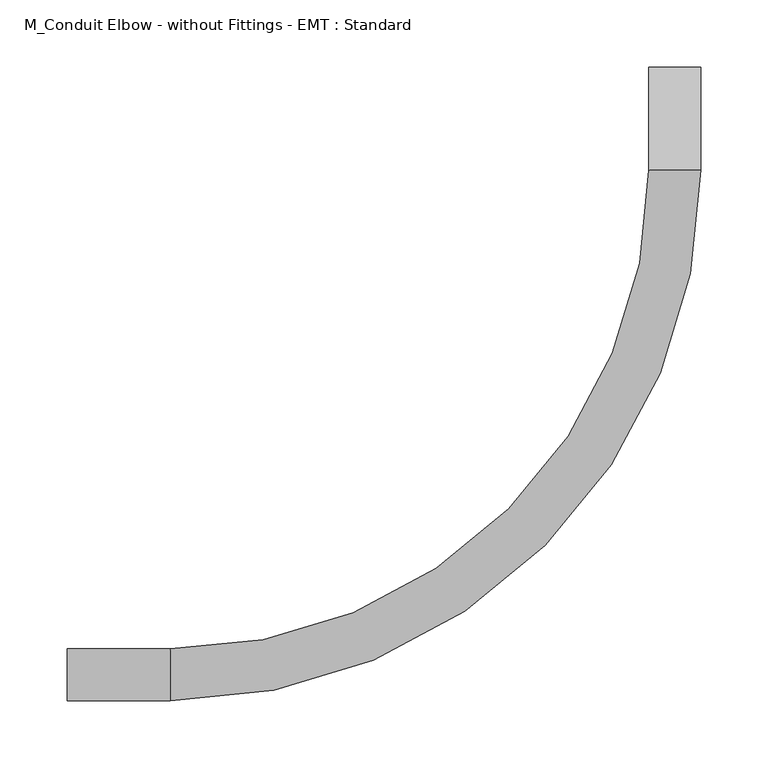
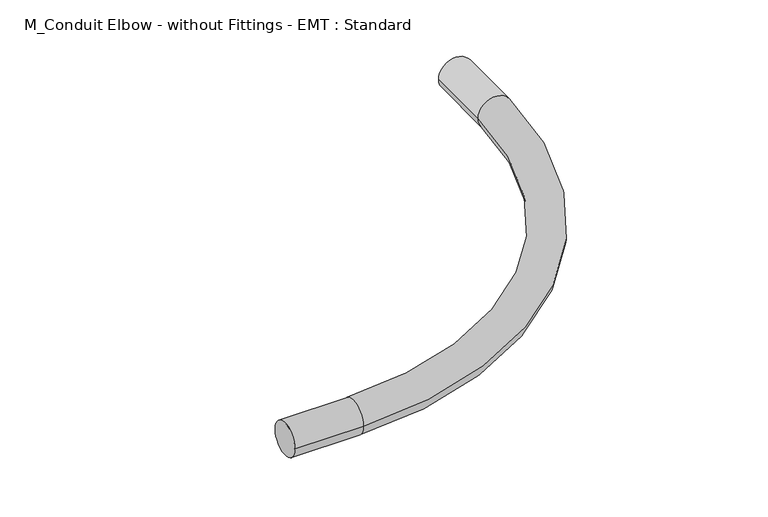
"""IFC4 building model written with IfcOpenShell, lengths in millimetres: cable carrier fitting geometry, M_Conduit Elbow - without Fittings - EMT : Standard."""

from ifc_helpers import new_model, si_unit, point, frame, origin, place, context, project, spatial, circle_curve, ellipse_curve, trimmed, source, transform, mapped, element, save
from ifc_brep_helpers import plane_surface, cylinder_surface, revolved_surface, advanced_brep


def m_conduit_elbow_without_fittings_emt_standard_47185c4a(model_context):
    return source(origin(), model_context, "Body", "AdvancedBrep", [
        advanced_brep(
        [(-450.85, -19.177, 0.0), (-450.85, 19.177, 0.0), (-374.65, -19.177, 0.0), (-374.65, 19.177, 0.0), (-19.177, 374.65, 0.0), (19.177, 374.65, 0.0), (19.177, 450.85, 0.0), (-19.177, 450.85, 0.0)],
        [
            (0, 1, circle_curve(frame((-450.85, 0.0, 0.0), z_axis=(-1.0, 0.0, 0.0), x_axis=(0.0, 1.0, 0.0)), 19.177)),
            (1, 0, circle_curve(frame((-450.85, 0.0, 0.0), z_axis=(-1.0, 0.0, 0.0), x_axis=(0.0, 1.0, 0.0)), 19.177)),
            (0, 2),
            (2, 3, circle_curve(frame((-374.65, 0.0, 0.0), z_axis=(-1.0, 0.0, 0.0), x_axis=(0.0, 1.0, 0.0)), 19.177)),
            (3, 1),
            (3, 2, circle_curve(frame((-374.65, 0.0, 0.0), z_axis=(-1.0, 0.0, 0.0), x_axis=(0.0, 1.0, 0.0)), 19.177)),
            (4, 3, circle_curve(frame((-374.65, 374.65, 0.0), z_axis=(0.0, 0.0, -1.0), x_axis=(0.0, -1.0, 0.0)), 355.473)),
            (2, 5, circle_curve(frame((-374.65, 374.65, 0.0), z_axis=(0.0, 0.0, 1.0), x_axis=(0.0, -1.0, 0.0)), 393.827)),
            (5, 4, circle_curve(frame((0.0, 374.65, 0.0), z_axis=(0.0, -1.0, 0.0), x_axis=(-1.0, 0.0, 0.0)), 19.177)),
            (4, 5, circle_curve(frame((0.0, 374.65, 0.0), z_axis=(0.0, -1.0, 0.0), x_axis=(-1.0, 0.0, 0.0)), 19.177)),
            (6, 7, circle_curve(frame((0.0, 450.85, 0.0), z_axis=(0.0, 1.0, 0.0), x_axis=(-1.0, 0.0, 0.0)), 19.177)),
            (7, 6, circle_curve(frame((0.0, 450.85, 0.0), z_axis=(0.0, 1.0, 0.0), x_axis=(-1.0, 0.0, 0.0)), 19.177)),
            (5, 6),
            (7, 4),
        ],
        [
            plane_surface(frame((-450.85, 0.0, 0.0), z_axis=(-1.0, 0.0, 0.0), x_axis=(0.0, 0.0, 1.0))),
            cylinder_surface(frame((-450.85, 0.0, 0.0), z_axis=(-1.0, 0.0, 0.0), x_axis=(0.0, 1.0, 0.0)), 19.177),
            revolved_surface(trimmed(ellipse_curve(frame((-374.65, 0.0, 0.0), z_axis=(-1.0, 0.0, 0.0), x_axis=(0.0, 1.0, 0.0)), 19.177, 19.177), [point((-374.65, -19.177, 0.0))], [point((-374.65, 19.177, 0.0))], True, "CARTESIAN"), (-374.65, 374.65, 0.0), (0.0, 0.0, 1.0)),
            revolved_surface(trimmed(ellipse_curve(frame((-374.65, 0.0, 0.0), z_axis=(-1.0, 0.0, 0.0), x_axis=(0.0, 1.0, 0.0)), 19.177, 19.177), [point((-374.65, 19.177, 0.0))], [point((-374.65, -19.177, 0.0))], True, "CARTESIAN"), (-374.65, 374.65, 0.0), (0.0, 0.0, 1.0)),
            plane_surface(frame((0.0, 450.85, 0.0), z_axis=(0.0, 1.0, 0.0), x_axis=(0.0, 0.0, 1.0))),
            cylinder_surface(frame((0.0, 374.65, 0.0), z_axis=(0.0, -1.0, 0.0), x_axis=(-1.0, 0.0, 0.0)), 19.177),
        ],
        [
            (0, [[1, 2]]),
            (1, [[-1, 3, 4, 5]]),
            (1, [[-2, -5, 6, -3]]),
            (2, [[7, -4, 8, 9]]),
            (3, [[-8, -6, -7, 10]]),
            (4, [[11, 12]]),
            (5, [[-9, 13, -12, 14]]),
            (5, [[-10, -14, -11, -13]]),
        ],
    ),
    ])


if __name__ == "__main__":
    model = new_model("IFC4")
    model_context = context("Model", 3, world=origin())
    ifc_project = project(units=[si_unit("LENGTHUNIT", "METRE", prefix="MILLI")], contexts=[model_context])
    site = spatial("IfcSite", under=ifc_project)
    building = spatial("IfcBuilding", under=site)
    placement = place(None, origin())
    m_conduit_elbow_without_fittings_emt_standard_shape = m_conduit_elbow_without_fittings_emt_standard_47185c4a(model_context)
    element("IfcCableCarrierFitting", 1, ObjectType="M_Conduit Elbow - without Fittings - EMT : Standard", at=placement, inside=building, context=model_context, shape_type="MappedRepresentation", body=[
        mapped(m_conduit_elbow_without_fittings_emt_standard_shape, transform((0.0, 0.0, 0.0), x_axis=(1.0, 0.0, 0.0), y_axis=(0.0, 1.0, 0.0), z_axis=(0.0, 0.0, 1.0))),
    ])
    save(model, "model.ifc")
